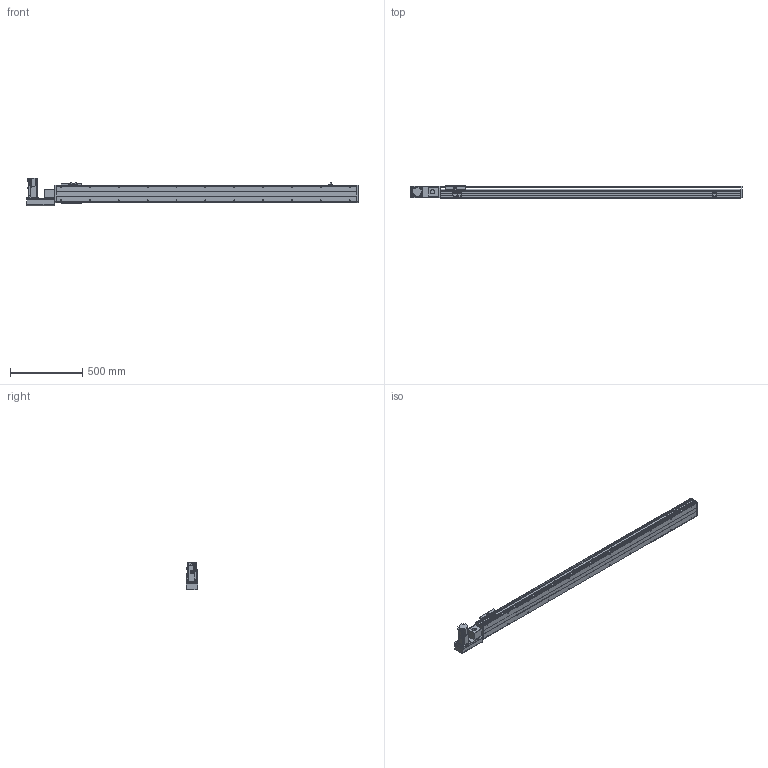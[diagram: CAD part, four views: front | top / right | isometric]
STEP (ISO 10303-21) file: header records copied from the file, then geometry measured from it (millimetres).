
FILE_DESCRIPTION( ( 'STEP AP214' ), '1' );
FILE_NAME( 'x:/temp/worker_26/temp/exporttempdir_3776_69_8IgMk/format_0/PBS120-P40-S1800-L-T40-C1-N(0).stp', '2022-06-05T00:27:10', ( 'License CC BY-ND 4.0' ), ( 'CADENAS' ), ' ', 'PARTsolutions', ' ' );
FILE_SCHEMA( ( 'AUTOMOTIVE_DESIGN { 1 0 10303 214 1 1 1 1 }' ) );
Length unit declared in the file: millimetre
Products named in the file (7): PBS120-P40-S1800-L-T40-C1-N(0); _PBS120-S1800()_body; _PBS120T-L_motors; _T40-p1; _PBS120_sliser; _PBS120_plant; _PBS120_sensor
Assembly tree (8 placements, depth 2):
  PBS120-P40-S1800-L-T40-C1-N(0)
    _PBS120-S1800()_body
    _PBS120T-L_motors
    _T40-p1
    _PBS120_sliser
    _PBS120_plant
    _PBS120_sensor  x3
Bounding box: 2301 x 83 x 189.7 mm (x, y, z)
Volume: 8565363 mm3; surface area: 1738186 mm2
Topology: 8 solids, 8 shells, 846 faces, 2186 edges, 1405 vertices
Faces by surface type: plane 555, cylinder 235, cone 54, torus 2
Full cylindrical faces by diameter (mm): 2.459 x6, 3.242 x4, 4 x2, 4.134 x4, 4.5 x10, 4.917 x26, 5.5 x11, 6 x2, 6.6 x1, 7 x2, 8.5 x4, 9 x4, 12 x1, 14 x1, 30 x2, 40 x1, 50 x2
Entity records: 27828 total; most frequent: DIRECTION 3812, CARTESIAN_POINT 3731, ORIENTED_EDGE 3538, EDGE_CURVE 1769, AXIS2_PLACEMENT_3D 1292, LINE 1228, VECTOR 1228, VERTEX_POINT 1211
